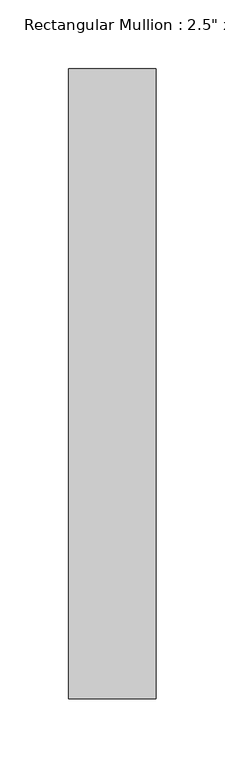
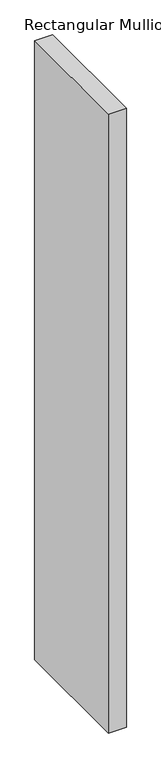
"""IFC4 building model written with IfcOpenShell, lengths in millimetres: member geometry."""

from ifc_helpers import new_model, si_unit, frame, origin, place, context, project, spatial, polyline, outline, extrude, source, transform, mapped, element, save


def member_ad65018b(model_context):
    return source(origin(), model_context, "Body", "SweptSolid", [
        extrude(outline(polyline([(31.75, 25.4), (31.75, -431.8), (-31.75, -431.8), (-31.75, 25.4), (31.75, 25.4)])), frame((0.0, 0.0, -2339.2506944), z_axis=(0.0, 0.0, 1.0), x_axis=(1.0, 0.0, 0.0)), (0.0, 0.0, 1.0), 2339.2506944),
    ])


if __name__ == "__main__":
    model = new_model("IFC4")
    model_context = context("Model", 3, world=origin())
    ifc_project = project(units=[si_unit("LENGTHUNIT", "METRE", prefix="MILLI")], contexts=[model_context])
    site = spatial("IfcSite", under=ifc_project)
    building = spatial("IfcBuilding", under=site)
    placement = place(None, origin())
    member_shape = member_ad65018b(model_context)
    element("IfcMember", 1, ObjectType="Rectangular Mullion : 2.5\" x 18\" rectangular", at=placement, inside=building, context=model_context, shape_type="MappedRepresentation", body=[
        mapped(member_shape, transform((0.0, 0.0, 0.0), x_axis=(1.0, 0.0, 0.0), y_axis=(0.0, 1.0, 0.0), z_axis=(0.0, 0.0, 1.0))),
    ])
    save(model, "model.ifc")
